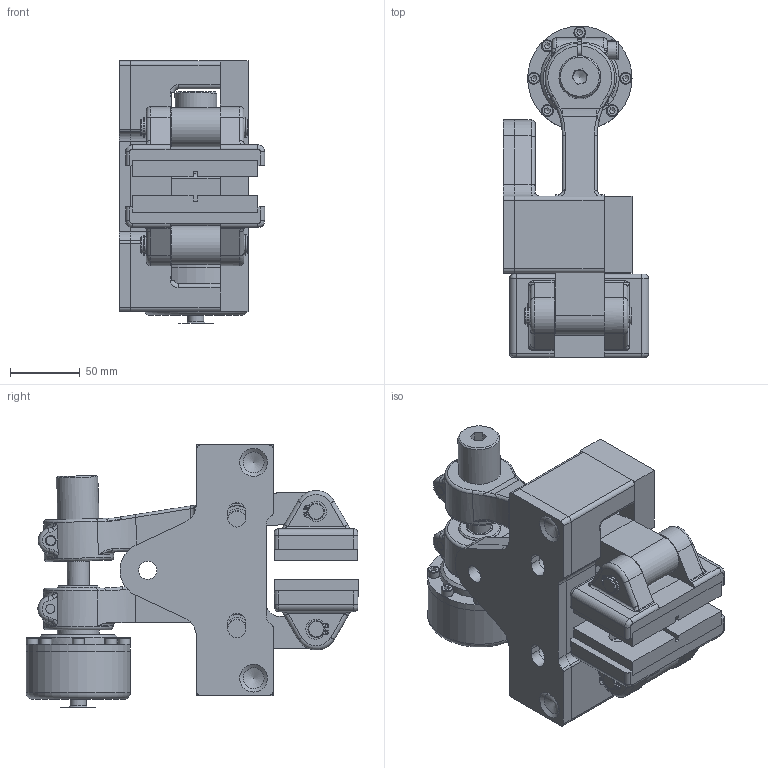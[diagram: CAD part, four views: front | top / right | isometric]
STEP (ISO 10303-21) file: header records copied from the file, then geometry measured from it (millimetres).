
FILE_DESCRIPTION(/* description */ ('','CAx-IF Rec.Pracs.---Representation and Presentation of Product Manufacturing Information (PMI)---4.0---2014-10-13'),/* implementation_level */ '2;1');
FILE_NAME(/* name */ 'X:\INVENTOR\DISEGNI\19_Pinze\STEP x Sito\OLEO-POSITIVE\19_26_031_03 POH031_12,7.stp',/* time_stamp */ '2018-02-20T11:18:11+01:00',/* author */ ('stefano'),/* organization */ (''),/* preprocessor_version */ 'ST-DEVELOPER v17',/* originating_system */ 'Autodesk Inventor 2018',/* authorisation */ '');
FILE_SCHEMA (('AP242_MANAGED_MODEL_BASED_3D_ENGINEERING_MIM_LF { 1 0 10303 442 1 1 4 }'));
Length unit declared in the file: millimetre
Products named in the file (1): 19_26_031_03 POH031_12,7_Substitute_2
Bounding box: 104.5 x 238.5 x 188.25 mm (x, y, z)
Volume: 1630660.4 mm3; surface area: 218990.9 mm2
Topology: 1 solids, 1 shells, 962 faces, 2639 edges, 1717 vertices
Faces by surface type: plane 481, cylinder 272, cone 72, bspline 70, torus 66, sphere 1
Full cylindrical faces by diameter (mm): 1.7 x18, 5 x1, 6 x4, 6.5 x4, 6.647 x1, 8 x2, 8.5 x10, 9.5 x2, 10 x1, 11.445 x1, 11.5 x4, 12 x15, 13 x8, 13.4 x6, 13.5 x2, 14 x12, 16 x6, 16.5 x4, 19 x1, 21 x3, 22.6 x1, 30 x2, 35 x1, 56.5 x1, 75 x2
Entity records: 34055 total; most frequent: CARTESIAN_POINT 8482, DIRECTION 5227, ORIENTED_EDGE 5206, EDGE_CURVE 2603, AXIS2_PLACEMENT_3D 1967, VERTEX_POINT 1717, LINE 1293, VECTOR 1293
